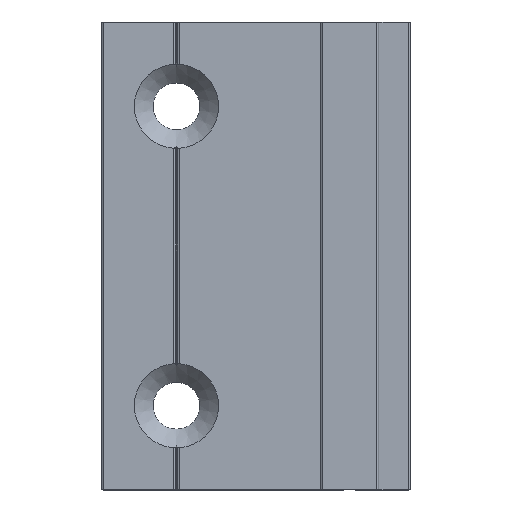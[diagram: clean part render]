
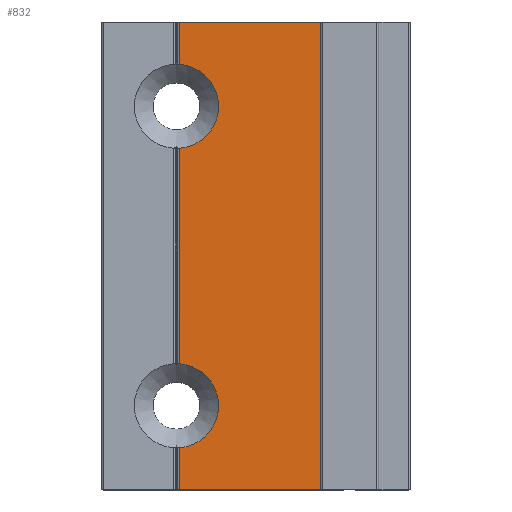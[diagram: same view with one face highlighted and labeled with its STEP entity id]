
A CAD part, top view. The second image highlights one B-rep face of the part: STEP entity #832.
In plain terms, the highlighted planar face has unit normal (0, 0, 1).
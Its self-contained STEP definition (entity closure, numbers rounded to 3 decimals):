
#31=PLANE('',#902);
#58=CIRCLE('',#903,4.5);
#59=CIRCLE('',#904,4.5);
#87=LINE('',#1227,#160);
#92=LINE('',#1275,#165);
#110=LINE('',#1351,#183);
#111=LINE('',#1357,#184);
#112=LINE('',#1359,#185);
#113=LINE('',#1361,#186);
#160=VECTOR('',#968,1000.);
#165=VECTOR('',#983,1000.);
#183=VECTOR('',#1043,1000.);
#184=VECTOR('',#1052,1000.);
#185=VECTOR('',#1053,1000.);
#186=VECTOR('',#1054,1000.);
#304=ORIENTED_EDGE('',*,*,#537,.T.);
#305=ORIENTED_EDGE('',*,*,#489,.F.);
#306=ORIENTED_EDGE('',*,*,#538,.T.);
#307=ORIENTED_EDGE('',*,*,#502,.F.);
#308=ORIENTED_EDGE('',*,*,#539,.T.);
#309=ORIENTED_EDGE('',*,*,#540,.T.);
#310=ORIENTED_EDGE('',*,*,#541,.F.);
#311=ORIENTED_EDGE('',*,*,#535,.F.);
#489=EDGE_CURVE('',#612,#610,#87,.T.);
#502=EDGE_CURVE('',#622,#620,#92,.T.);
#535=EDGE_CURVE('',#643,#644,#110,.T.);
#537=EDGE_CURVE('',#643,#610,#58,.T.);
#538=EDGE_CURVE('',#612,#620,#59,.T.);
#539=EDGE_CURVE('',#622,#645,#111,.T.);
#540=EDGE_CURVE('',#645,#646,#112,.T.);
#541=EDGE_CURVE('',#644,#646,#113,.T.);
#610=VERTEX_POINT('',#1219);
#612=VERTEX_POINT('',#1226);
#620=VERTEX_POINT('',#1270);
#622=VERTEX_POINT('',#1274);
#643=VERTEX_POINT('',#1350);
#644=VERTEX_POINT('',#1352);
#645=VERTEX_POINT('',#1358);
#646=VERTEX_POINT('',#1360);
#721=EDGE_LOOP('',(#304,#305,#306,#307,#308,#309,#310,#311));
#768=FACE_BOUND('',#721,.T.);
#832=ADVANCED_FACE('',(#768),#31,.T.);
#902=AXIS2_PLACEMENT_3D('',#1354,#1046,#1047);
#903=AXIS2_PLACEMENT_3D('',#1355,#1048,#1049);
#904=AXIS2_PLACEMENT_3D('',#1356,#1050,#1051);
#968=DIRECTION('',(0.,1.,0.));
#983=DIRECTION('',(0.,1.,0.));
#1043=DIRECTION('',(0.,1.,0.));
#1046=DIRECTION('',(0.,0.,1.));
#1047=DIRECTION('',(0.,-1.,0.));
#1048=DIRECTION('',(0.,0.,-1.));
#1049=DIRECTION('',(-1.,0.,0.));
#1050=DIRECTION('',(0.,0.,-1.));
#1051=DIRECTION('',(-1.,0.,0.));
#1052=DIRECTION('',(1.,0.,0.));
#1053=DIRECTION('',(0.,1.,0.));
#1054=DIRECTION('',(1.,0.,0.));
#1219=CARTESIAN_POINT('',(-8.217,11.509,-1.2));
#1226=CARTESIAN_POINT('',(-8.217,-11.509,-1.2));
#1227=CARTESIAN_POINT('',(-8.217,-25.,-1.2));
#1270=CARTESIAN_POINT('',(-8.217,-20.491,-1.2));
#1274=CARTESIAN_POINT('',(-8.217,-25.,-1.2));
#1275=CARTESIAN_POINT('',(-8.217,-25.,-1.2));
#1350=CARTESIAN_POINT('',(-8.217,20.491,-1.2));
#1351=CARTESIAN_POINT('',(-8.217,-25.,-1.2));
#1352=CARTESIAN_POINT('',(-8.217,25.,-1.2));
#1354=CARTESIAN_POINT('',(-8.217,-25.,-1.2));
#1355=CARTESIAN_POINT('',(-8.5,16.,-1.2));
#1356=CARTESIAN_POINT('',(-8.5,-16.,-1.2));
#1357=CARTESIAN_POINT('',(-8.217,-25.,-1.2));
#1358=CARTESIAN_POINT('',(8.5,-25.,-1.2));
#1359=CARTESIAN_POINT('',(8.5,-25.,-1.2));
#1360=CARTESIAN_POINT('',(8.5,25.,-1.2));
#1361=CARTESIAN_POINT('',(-8.217,25.,-1.2));
